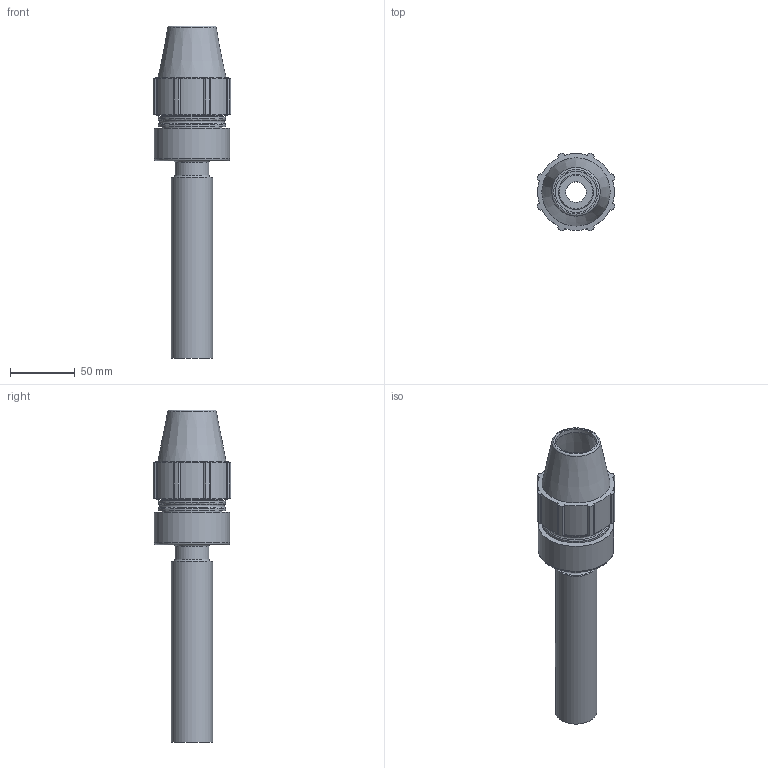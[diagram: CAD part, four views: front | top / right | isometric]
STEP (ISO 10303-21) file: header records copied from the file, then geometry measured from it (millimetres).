
FILE_DESCRIPTION(/* description */ ('Plasson Adjustable Elbow 32 x 32 mm'),/* implementation_level */ '2;1');
FILE_NAME(/* name */ 'C:\Dropbox\KIMPROJECTS-Inventor 2019\99-16-3568-Processing\Mechanical Fittings\07470\074706032.stp',/* time_stamp */ '2023-03-23T11:35:14+02:00',/* author */ ('comp2'),/* organization */ (''),/* preprocessor_version */ 'ST-DEVELOPER v17.2',/* originating_system */ 'Autodesk Inventor 2019',/* authorisation */ '');
FILE_SCHEMA (('AUTOMOTIVE_DESIGN { 1 0 10303 214 3 1 1 }'));
Length unit declared in the file: millimetre
Products named in the file (1): 074706032
Bounding box: 60.22 x 60.22 x 257 mm (x, y, z)
Volume: 206802.5 mm3; surface area: 80536.4 mm2
Topology: 4 solids, 4 shells, 94 faces, 272 edges, 194 vertices
Faces by surface type: plane 48, cylinder 32, cone 7, torus 5, bspline 1, sphere 1
Full cylindrical faces by diameter (mm): 16 x1, 26.24 x2, 27.2 x1, 32 x4, 35.2 x1, 46.4 x4, 52.4 x2, 58.4 x1
Entity records: 3503 total; most frequent: CARTESIAN_POINT 888, DIRECTION 557, ORIENTED_EDGE 544, EDGE_CURVE 272, AXIS2_PLACEMENT_3D 227, VERTEX_POINT 194, CIRCLE 133, EDGE_LOOP 110
